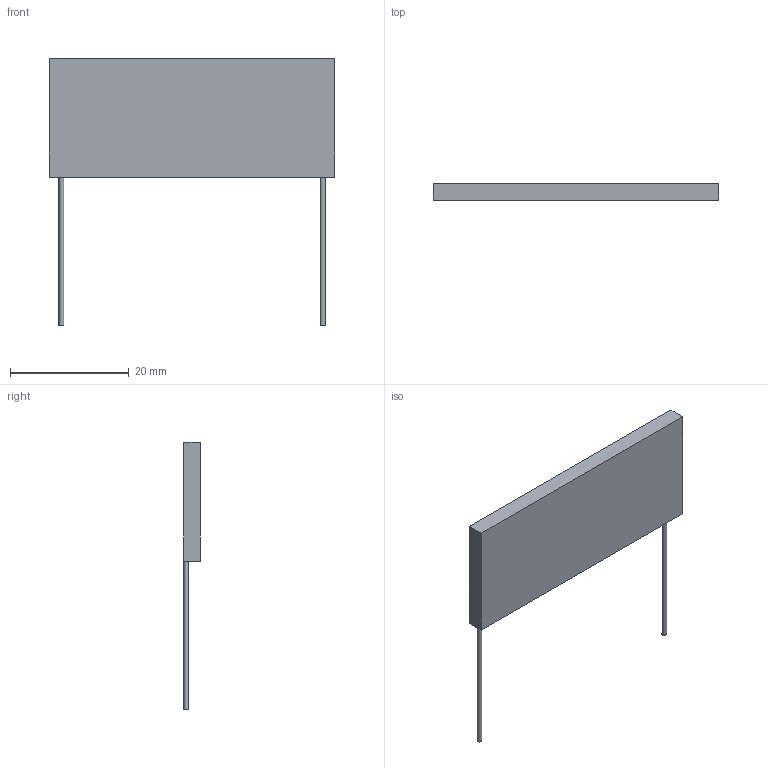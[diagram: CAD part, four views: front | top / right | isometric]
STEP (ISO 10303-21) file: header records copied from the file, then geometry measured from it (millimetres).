
FILE_DESCRIPTION(('STEP AP203'), '1');
FILE_NAME('R1-35-5-3', '', ('UNSPECIFIED'), ('UNSPECIFIED'), 'ASCON STEP Converter 1.6', 'ASCON Math Kernel', '');
FILE_SCHEMA(('CONFIG_CONTROL_DESIGN'));
Length unit declared in the file: millimetre
Bounding box: 48 x 2.8 x 45 mm (x, y, z)
Volume: 2713.1 mm3; surface area: 2426.5 mm2
Topology: 1 solids, 1 shells, 10 faces, 22 edges, 14 vertices
Faces by surface type: plane 8, cylinder 2
Full cylindrical faces by diameter (mm): 0.8 x2
Entity records: 390 total; most frequent: DIRECTION 48, CARTESIAN_POINT 45, ORIENTED_EDGE 40, EDGE_CURVE 20, AXIS2_PLACEMENT_3D 17, VERTEX_POINT 14, LINE 14, VECTOR 14
